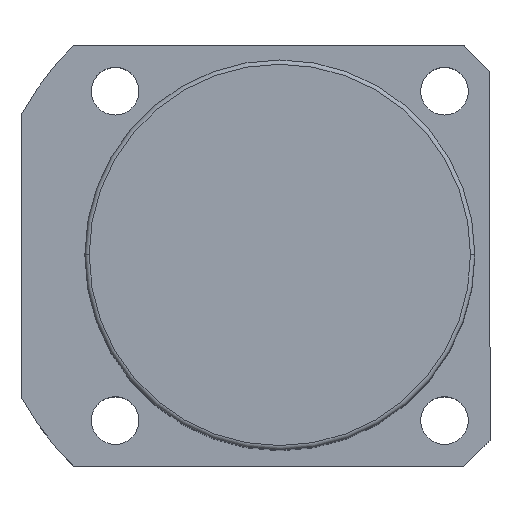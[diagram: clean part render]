
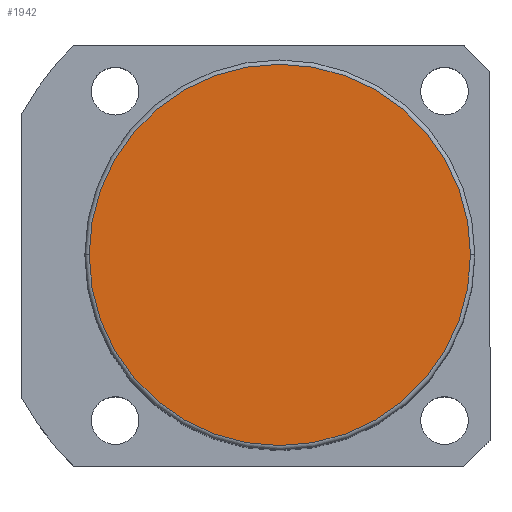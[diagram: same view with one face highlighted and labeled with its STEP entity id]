
A CAD part, top view. The second image highlights one B-rep face of the part: STEP entity #1942.
In plain terms, the highlighted planar face has unit normal (0, 0, 1).
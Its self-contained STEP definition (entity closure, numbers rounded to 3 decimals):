
#19 = CIRCLE ( 'NONE', #1817, 44. ) ;
#94 = DIRECTION ( 'NONE',  ( 0., 0., 1. ) ) ;
#237 = CARTESIAN_POINT ( 'NONE',  ( 0., 0., 141.5 ) ) ;
#300 = EDGE_CURVE ( 'NONE', #1644, #1961, #678, .T. ) ;
#420 = CARTESIAN_POINT ( 'NONE',  ( 0., 0., 141.5 ) ) ;
#554 = DIRECTION ( 'NONE',  ( 1., 0., 0. ) ) ;
#678 = CIRCLE ( 'NONE', #1797, 44. ) ;
#697 = DIRECTION ( 'NONE',  ( 1., 0., 0. ) ) ;
#781 = ORIENTED_EDGE ( 'NONE', *, *, #300, .T. ) ;
#820 = DIRECTION ( 'NONE',  ( 1., 0., 0. ) ) ;
#821 = ORIENTED_EDGE ( 'NONE', *, *, #1138, .T. ) ;
#839 = PLANE ( 'NONE',  #972 ) ;
#972 = AXIS2_PLACEMENT_3D ( 'NONE', #420, #1760, #554 ) ;
#989 = DIRECTION ( 'NONE',  ( 0., 0., 1. ) ) ;
#1012 = CARTESIAN_POINT ( 'NONE',  ( 0., 0., 141.5 ) ) ;
#1138 = EDGE_CURVE ( 'NONE', #1961, #1644, #19, .T. ) ;
#1168 = EDGE_LOOP ( 'NONE', ( #821, #781 ) ) ;
#1534 = CARTESIAN_POINT ( 'NONE',  ( -44., 0., 141.5 ) ) ;
#1619 = CARTESIAN_POINT ( 'NONE',  ( 44., 0., 141.5 ) ) ;
#1644 = VERTEX_POINT ( 'NONE', #1534 ) ;
#1760 = DIRECTION ( 'NONE',  ( 0., 0., 1. ) ) ;
#1797 = AXIS2_PLACEMENT_3D ( 'NONE', #237, #989, #820 ) ;
#1817 = AXIS2_PLACEMENT_3D ( 'NONE', #1012, #94, #697 ) ;
#1838 = FACE_OUTER_BOUND ( 'NONE', #1168, .T. ) ;
#1942 = ADVANCED_FACE ( 'NONE', ( #1838 ), #839, .T. ) ;
#1961 = VERTEX_POINT ( 'NONE', #1619 ) ;
